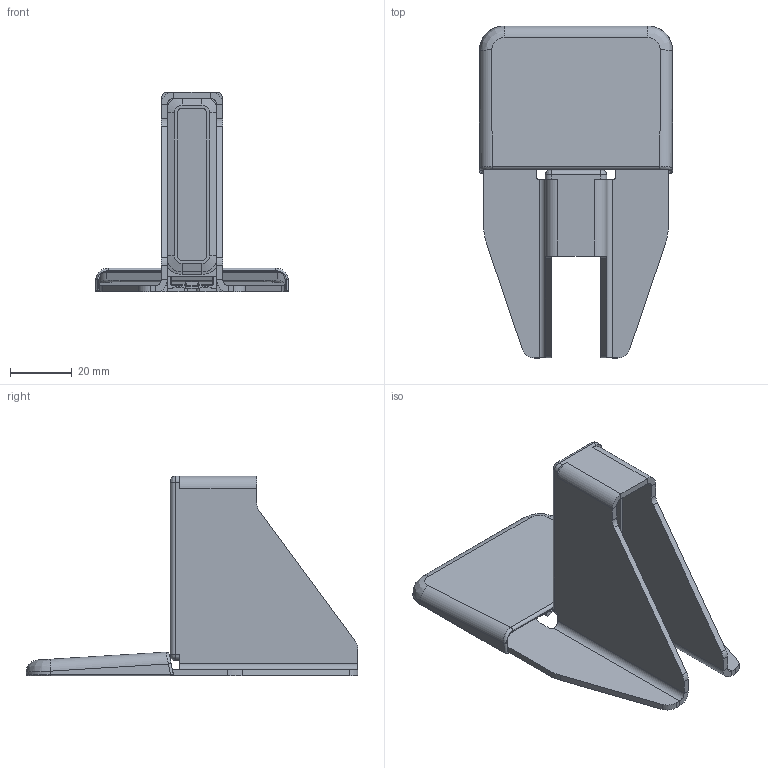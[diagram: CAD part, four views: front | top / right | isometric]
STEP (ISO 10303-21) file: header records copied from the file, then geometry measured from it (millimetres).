
FILE_DESCRIPTION((''),'2;1');
FILE_NAME('3D-852003-00','2024-11-15T08:19:29',('1ke04'),('Kesseboehmer'),'CREO PARAMETRIC BY PTC INC, 2020414','CREO PARAMETRIC BY PTC INC, 2020414','');
FILE_SCHEMA(('AUTOMOTIVE_DESIGN { 1 0 10303 214 1 1 1 1 }'));
Length unit declared in the file: millimetre
Products named in the file (1): 3D-852003-00
Bounding box: 62.83 x 107.96 x 65 mm (x, y, z)
Volume: 30097.9 mm3; surface area: 34874.8 mm2
Topology: 1 solids, 1 shells, 352 faces, 900 edges, 538 vertices
Faces by surface type: cylinder 141, plane 139, bspline 54, cone 12, sphere 6
Entity records: 13940 total; most frequent: CARTESIAN_POINT 5073, ORIENTED_EDGE 1800, DIRECTION 1608, EDGE_CURVE 900, AXIS2_PLACEMENT_3D 558, VERTEX_POINT 538, VECTOR 489, LINE 489
